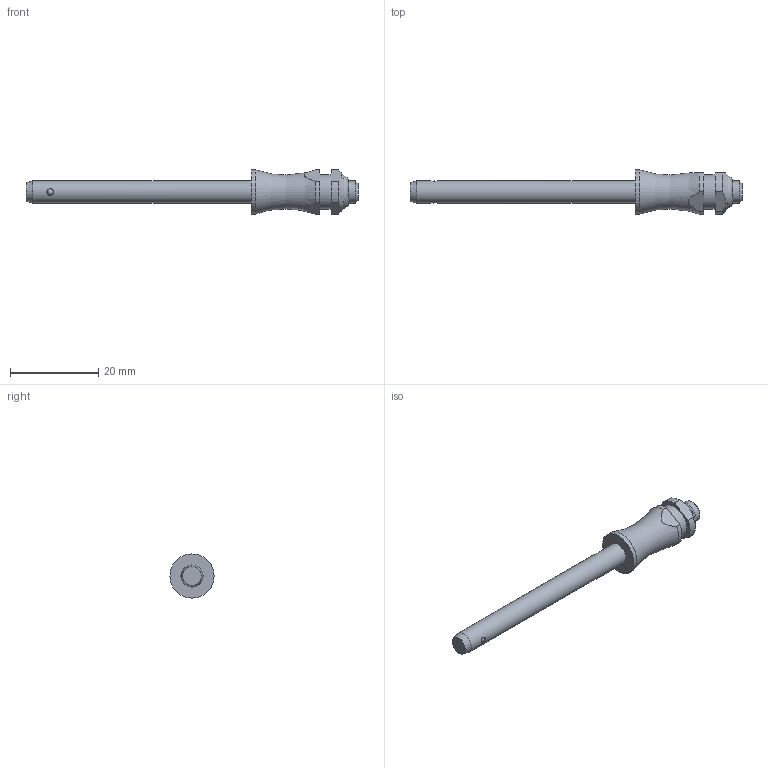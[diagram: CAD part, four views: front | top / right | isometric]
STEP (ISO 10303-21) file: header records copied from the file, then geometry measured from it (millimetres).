
FILE_DESCRIPTION( ( 'STEP AP203' ), '1' );
FILE_NAME( 'C:/Temp/Ganter_Step_05_03_2020/data/3_1/gn113_3/Stainless Steel-Ball lock pin GN 113.3-5-45 (activated).stp', '2020-03-12T08:18:12', ( 'License CC BY-ND 4.0' ), ( 'CADENAS' ), ' ', 'PARTsolutions', ' ' );
FILE_SCHEMA( ( 'CONFIG_CONTROL_DESIGN' ) );
Length unit declared in the file: millimetre
Products named in the file (1): _Stainless Steel-Ball lock pin GN 113.3-5-45 (activated)
Bounding box: 75.15 x 10 x 10 mm (x, y, z)
Volume: 2294.6 mm3; surface area: 1596.4 mm2
Topology: 1 solids, 1 shells, 31 faces, 73 edges, 46 vertices
Faces by surface type: plane 12, cylinder 12, cone 3, torus 2, sphere 2
Full cylindrical faces by diameter (mm): 1.5 x2, 5 x2, 7.9 x1, 10 x1
Entity records: 954 total; most frequent: CARTESIAN_POINT 290, DIRECTION 134, ORIENTED_EDGE 104, AXIS2_PLACEMENT_3D 58, EDGE_CURVE 52, EDGE_LOOP 48, VERTEX_POINT 40, FACE_OUTER_BOUND 39
